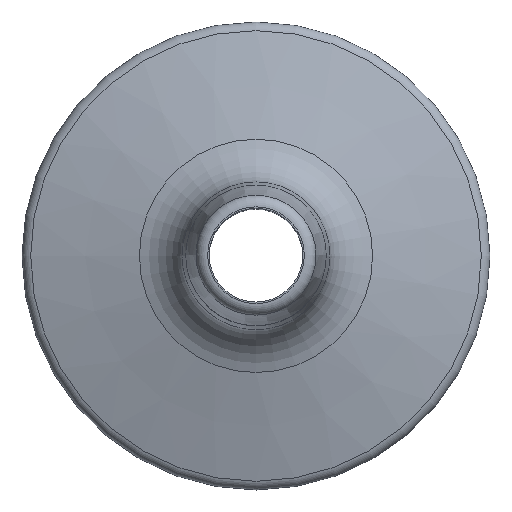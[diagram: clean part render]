
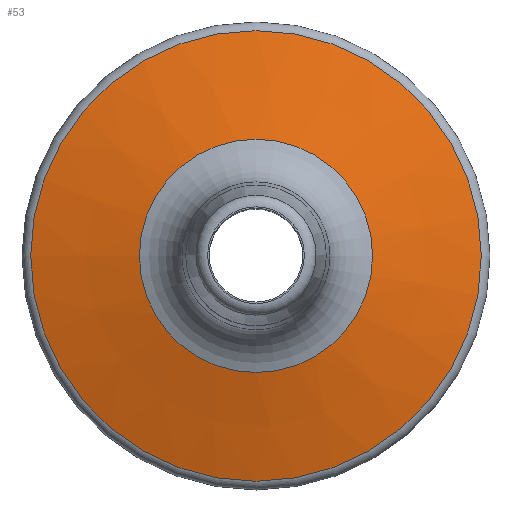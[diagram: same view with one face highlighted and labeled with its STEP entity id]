
A CAD part, top view. The second image highlights one B-rep face of the part: STEP entity #53.
In plain terms, the highlighted conical face has half-angle 75 degrees and reference radius 20 mm.
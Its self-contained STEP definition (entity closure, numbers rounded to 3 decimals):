
#53 = ADVANCED_FACE( '', ( #118, #119 ), #120, .T. );
#118 = FACE_OUTER_BOUND( '', #201, .T. );
#119 = FACE_BOUND( '', #202, .T. );
#120 = CONICAL_SURFACE( '', #203, 20., 1.309 );
#201 = EDGE_LOOP( '', ( #288 ) );
#202 = EDGE_LOOP( '', ( #289 ) );
#203 = AXIS2_PLACEMENT_3D( '', #290, #291, #292 );
#288 = ORIENTED_EDGE( '', *, *, #386, .T. );
#289 = ORIENTED_EDGE( '', *, *, #373, .T. );
#290 = CARTESIAN_POINT( '', ( 0., 0., 3. ) );
#291 = DIRECTION( '', ( 0., 0., -1. ) );
#292 = DIRECTION( '', ( -1., 0., 0. ) );
#373 = EDGE_CURVE( '', #412, #412, #413, .T. );
#386 = EDGE_CURVE( '', #433, #433, #434, .T. );
#412 = VERTEX_POINT( '', #469 );
#413 = CIRCLE( '', #470, 9.968 );
#433 = VERTEX_POINT( '', #490 );
#434 = CIRCLE( '', #491, 19.259 );
#469 = CARTESIAN_POINT( '', ( -9.968, 0., 5.688 ) );
#470 = AXIS2_PLACEMENT_3D( '', #526, #527, #528 );
#490 = CARTESIAN_POINT( '', ( 19.259, 0., 3.199 ) );
#491 = AXIS2_PLACEMENT_3D( '', #550, #551, #552 );
#526 = CARTESIAN_POINT( '', ( 0., 0., 5.688 ) );
#527 = DIRECTION( '', ( 0., 0., -1. ) );
#528 = DIRECTION( '', ( -1., 0., 0. ) );
#550 = CARTESIAN_POINT( '', ( 0., 0., 3.199 ) );
#551 = DIRECTION( '', ( 0., 0., 1. ) );
#552 = DIRECTION( '', ( 1., 0., 0. ) );
